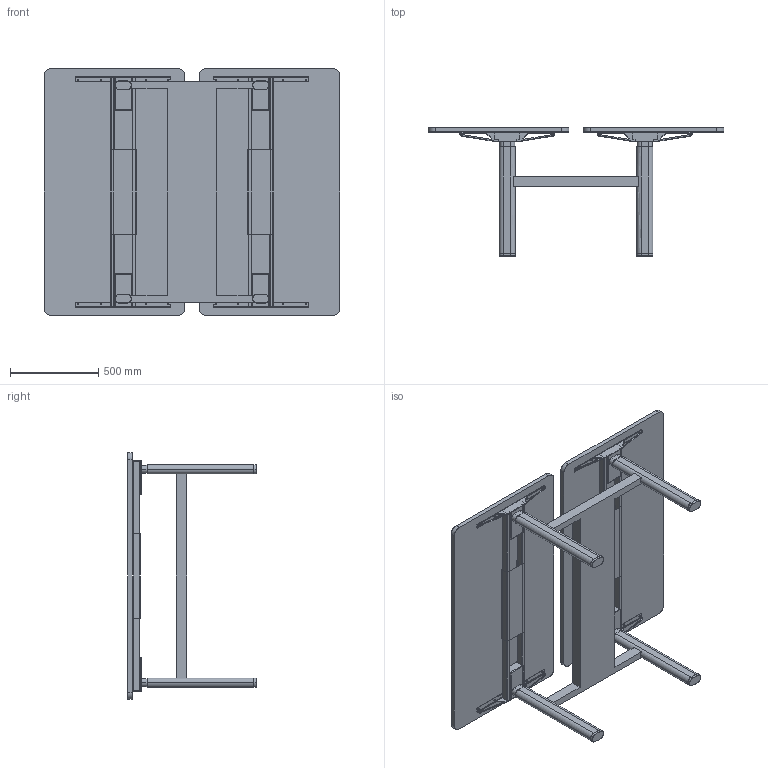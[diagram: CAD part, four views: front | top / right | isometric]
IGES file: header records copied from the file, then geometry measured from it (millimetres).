
Start section: SolidWorks IGES file using analytic representation for surfaces
Global section: file name: C:\Users\simone.cerana\OneDrive - Gruppo Tecno\Desktop\CHINA\DISEGNI DI SERIE\ASSIEMI LISTINO\AXIS LISTINO\AX1416ST.IGS; native system: SolidWorks 2024; preprocessor: SolidWorks 2024; author: simone.cerana; date: 260508.091723; units: millimetre
Bounding box: 1680 x 729.39 x 1400 mm (x, y, z)
Surface area: 7507425.3 mm2 (no closed solid volume)
Topology: 0 solids, 0 shells, 542 faces, 6352 edges, 6344 vertices
Faces by surface type: revolution 272, bspline 270
